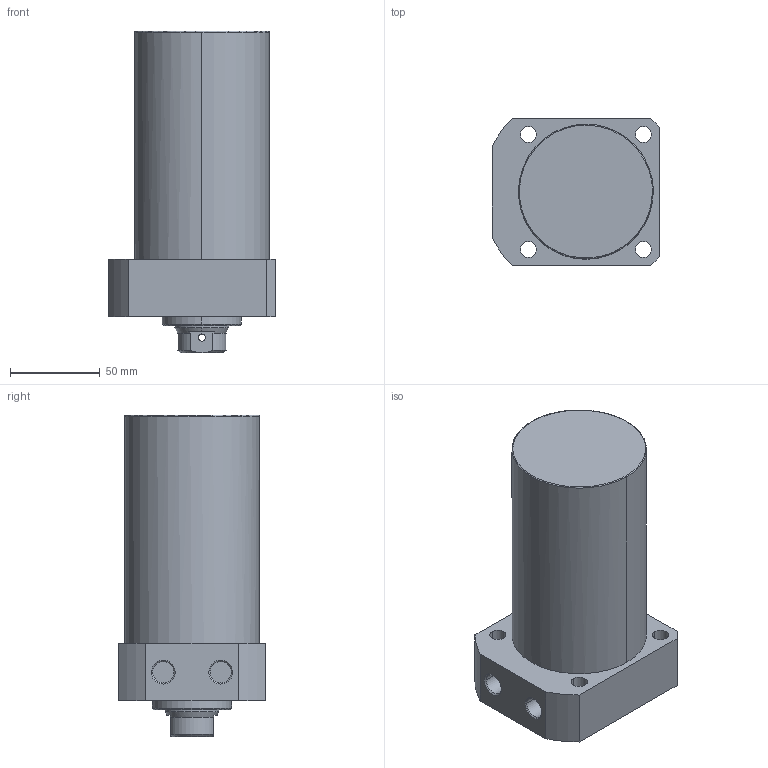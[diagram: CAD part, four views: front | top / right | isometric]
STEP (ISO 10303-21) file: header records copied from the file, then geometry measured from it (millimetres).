
FILE_DESCRIPTION((' '),'2;1');
FILE_NAME( 'TLLR-075CB-090.STEP.stp', '2025-10-24T16:35:08', (' '), ('--- Datakit www.datakit.com---'), ' Datakit CrossCadWare V2024.1 Dec 21 2023', 'Mastercam 2025', ' ');
FILE_SCHEMA(('AUTOMOTIVE_DESIGN { 1 0 10303 214 1 1 1 1 }'));
Length unit declared in the file: millimetre
Products named in the file (1): TLLR-075CB-090
Bounding box: 93 x 82 x 179 mm (x, y, z)
Volume: 796041.6 mm3; surface area: 63663.7 mm2
Topology: 1 solids, 1 shells, 67 faces, 197 edges, 136 vertices
Faces by surface type: cylinder 32, plane 19, cone 14, torus 2
Entity records: 3386 total; most frequent: CARTESIAN_POINT 1467, DIRECTION 426, ORIENTED_EDGE 390, EDGE_CURVE 195, AXIS2_PLACEMENT_3D 179, VERTEX_POINT 136, CIRCLE 111, EDGE_LOOP 85
